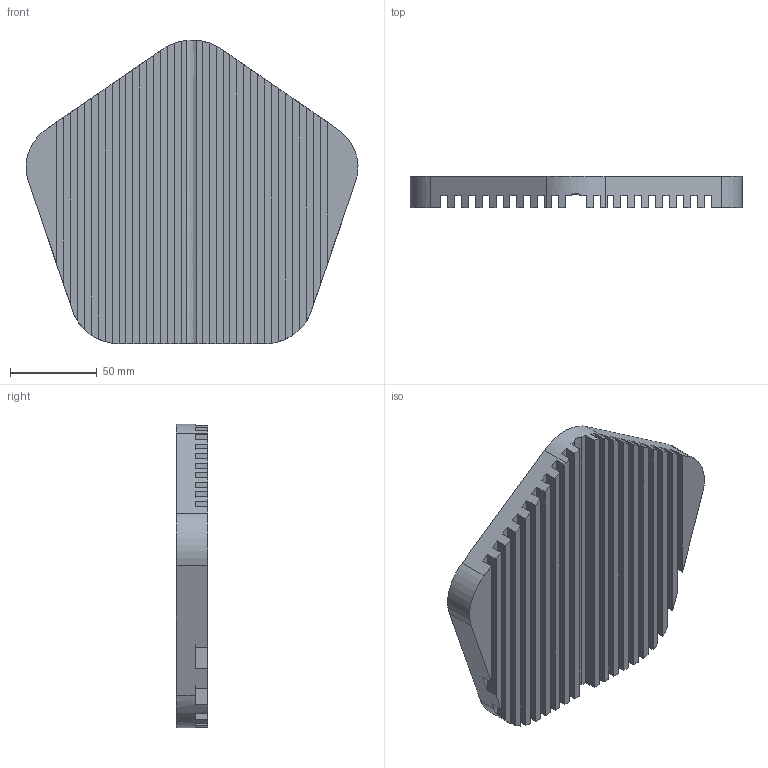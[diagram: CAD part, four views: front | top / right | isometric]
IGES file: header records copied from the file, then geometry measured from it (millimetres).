
Global section: file name: fond alu; native system: unknown; preprocessor: unknown; author: unknown; organization: unknown; date: 20160210.083758; units: millimetre
Bounding box: 191.51 x 17.94 x 175.23 mm (x, y, z)
Volume: 359186.8 mm3; surface area: 97481.7 mm2
Topology: 1 solids, 1 shells, 90 faces, 264 edges, 176 vertices
Faces by surface type: bspline 90
